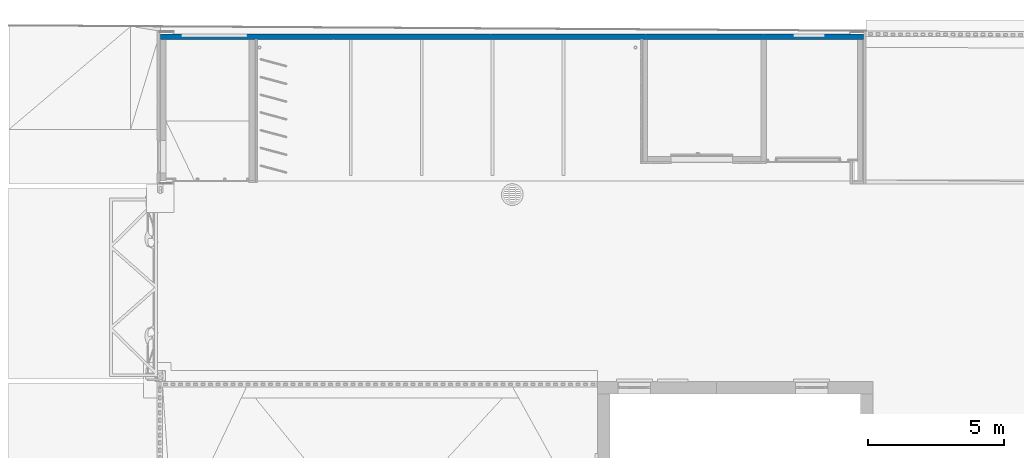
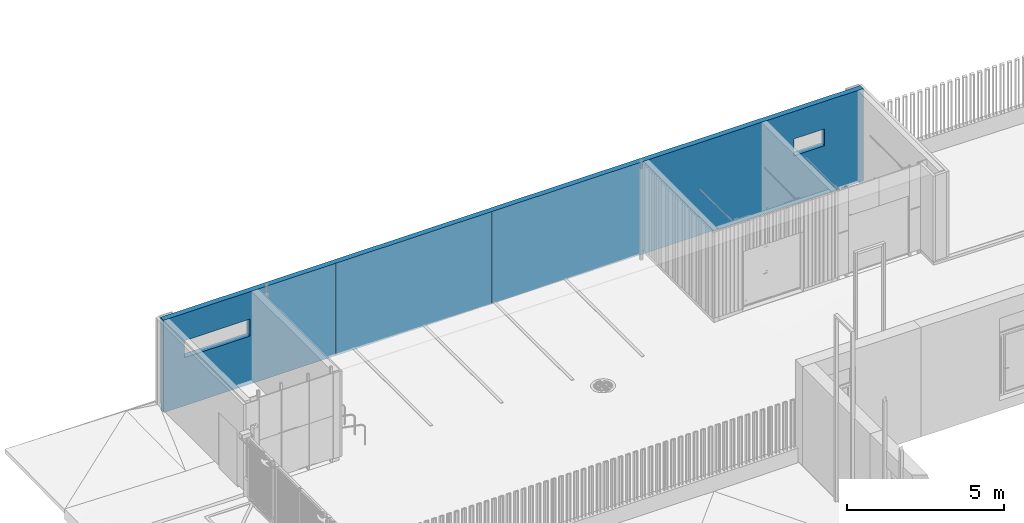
# One storey, part 37 of 77: 1 wall, 9 openings.
"""IFC2X3 building model written with IfcOpenShell, lengths in millimetres."""

from ifc_helpers import new_model, entity, si_unit, converted_unit, derived_unit, direction, frame, frame_2d, origin, origin_2d_with_axis, place, context, subcontext, project, spatial, rectangle, extrude, material, layer, layer_set, layer_usage, type_object, element, save


model = new_model("IFC2X3")

# Units and contexts
model_context = context("Model", 3, precision=0.01, world=origin(), true_north=direction((6.12303176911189e-17, 1.0)))
body_context = subcontext(model_context, "Body", "Model", "MODEL_VIEW")
ifc_project = project(units=[si_unit("LENGTHUNIT", "METRE", prefix="MILLI"), si_unit("AREAUNIT", "SQUARE_METRE"), si_unit("VOLUMEUNIT", "CUBIC_METRE"), converted_unit("PLANEANGLEUNIT", "DEGREE", entity("IfcRatioMeasure", 0.0174532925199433), si_unit("PLANEANGLEUNIT", "RADIAN"), dimensions=[0, 0, 0, 0, 0, 0, 0]), si_unit("MASSUNIT", "GRAM", prefix="KILO"), derived_unit("MASSDENSITYUNIT", [(si_unit("MASSUNIT", "GRAM", prefix="KILO"), 1), (si_unit("LENGTHUNIT", "METRE"), -3)]), si_unit("TIMEUNIT", "SECOND"), si_unit("FREQUENCYUNIT", "HERTZ"), si_unit("THERMODYNAMICTEMPERATUREUNIT", "DEGREE_CELSIUS"), derived_unit("THERMALTRANSMITTANCEUNIT", [(si_unit("MASSUNIT", "GRAM", prefix="KILO"), 1), (si_unit("THERMODYNAMICTEMPERATUREUNIT", "KELVIN"), -1), (si_unit("TIMEUNIT", "SECOND"), -3)]), derived_unit("VOLUMETRICFLOWRATEUNIT", [(si_unit("LENGTHUNIT", "METRE"), 3), (si_unit("TIMEUNIT", "SECOND"), -1)]), si_unit("ELECTRICCURRENTUNIT", "AMPERE"), si_unit("ELECTRICVOLTAGEUNIT", "VOLT"), si_unit("POWERUNIT", "WATT"), si_unit("FORCEUNIT", "NEWTON", prefix="KILO"), si_unit("ILLUMINANCEUNIT", "LUX"), si_unit("LUMINOUSFLUXUNIT", "LUMEN"), si_unit("LUMINOUSINTENSITYUNIT", "CANDELA"), derived_unit("USERDEFINED", [(si_unit("MASSUNIT", "GRAM", prefix="KILO"), -1), (si_unit("LENGTHUNIT", "METRE"), -2), (si_unit("TIMEUNIT", "SECOND"), 3), (si_unit("LUMINOUSFLUXUNIT", "LUMEN"), 1)]), derived_unit("LINEARVELOCITYUNIT", [(si_unit("LENGTHUNIT", "METRE"), 1), (si_unit("TIMEUNIT", "SECOND"), -1)]), si_unit("PRESSUREUNIT", "PASCAL"), derived_unit("USERDEFINED", [(si_unit("LENGTHUNIT", "METRE"), -2), (si_unit("MASSUNIT", "GRAM", prefix="KILO"), 1), (si_unit("TIMEUNIT", "SECOND"), -2)])], contexts=[model_context])

# Site, building, storey
site_placement = place(None, origin())
site = spatial("IfcSite", under=ifc_project, at=site_placement, Name="Default", CompositionType="ELEMENT")
building_placement = place(site_placement, origin())
building = spatial("IfcBuilding", under=site, at=building_placement, CompositionType="ELEMENT")
storey_placement = place(building_placement, origin())
storey = spatial("IfcBuildingStorey", under=building, at=storey_placement, Name="1. KORRUS", CompositionType="ELEMENT", Elevation=0.0)

# Wall, openings
ifc_material_1 = material(Name="RECKLI 1 173 THUR by Polantis 2016-toon3")
ifc_layer_1 = layer(ifc_material_1, 30.0)
ifc_material_2 = material(Name="Default New Material(1)")
ifc_layer_2 = layer(ifc_material_2, 170.0)
ifc_layer_set = layer_set([ifc_layer_1, ifc_layer_2], Name="Basic Wall:VS-10_rb200_terracota")
ifc_layer_usage = layer_usage(ifc_layer_set, "AXIS2", "NEGATIVE", 100.0)
wall_type = type_object("IfcWallType", Name="Basic Wall:VS-10_rb200_terracota", PredefinedType="STANDARD", material=ifc_layer_set)
wall_placement = place(storey_placement, frame((-16475.2351867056, 40700.0994344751, -200.0)))
wall = element("IfcWallStandardCase", 1, at=wall_placement, inside=storey, type_object=wall_type, material=ifc_layer_usage, Name="Basic Wall:VS-10_rb200_terracota", ObjectType="Basic Wall:VS-10_rb200_terracota", context=body_context, shape_type="SweptSolid", body=[
    extrude(rectangle(XDim=25775.0, YDim=200.000000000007, at=frame_2d((12887.5, 0.0), x_axis=(-1.0, 0.0))), origin(), (0.0, 0.0, 1.0), 3600.0),
])
opening_1_placement = place(wall_placement, origin())
element("IfcOpeningElement", 2, at=opening_1_placement, cuts=wall, Name="Basic Wall:VS-10_rb200_terracota", ObjectType="Recess", context=body_context, shape_type="SweptSolid", body=[
    extrude(rectangle(XDim=400.0, YDim=25775.0, at=frame_2d((0.0, 0.0), x_axis=(0.0, 1.0))), frame((12887.5, 80.0, 50.0), z_axis=(0.0, 1.0, 0.0), x_axis=(1.0, 0.0, 0.0)), (0.0, 0.0, 1.0), 20.0000000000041),
])
opening_2_placement = place(wall_placement, origin())
element("IfcOpeningElement", 3, at=opening_2_placement, cuts=wall, Name="Basic Wall:VS-10_rb200_terracota", ObjectType="Recess", context=body_context, shape_type="SweptSolid", body=[
    extrude(rectangle(XDim=3600.0, YDim=15.9999999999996, at=origin_2d_with_axis()), frame((22120.0051867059, 80.0, 1800.0), z_axis=(0.0, 1.0, 0.0), x_axis=(0.0, 0.0, 1.0)), (0.0, 0.0, 1.0), 20.0000000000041),
])
opening_3_placement = place(wall_placement, origin())
element("IfcOpeningElement", 4, at=opening_3_placement, cuts=wall, Name="Basic Wall:VS-10_rb200_terracota", ObjectType="Recess", context=body_context, shape_type="SweptSolid", body=[
    extrude(rectangle(XDim=3600.0, YDim=15.9999999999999, at=frame_2d((0.0, -1.35447209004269e-13), x_axis=(1.0, 0.0))), frame((17769.997856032, 80.0, 1800.0), z_axis=(0.0, 1.0, 0.0), x_axis=(0.0, 0.0, 1.0)), (0.0, 0.0, 1.0), 20.0000000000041),
])
opening_4_placement = place(wall_placement, origin())
element("IfcOpeningElement", 5, at=opening_4_placement, cuts=wall, Name="Basic Wall:VS-10_rb200_terracota", ObjectType="Recess", context=body_context, shape_type="SweptSolid", body=[
    extrude(rectangle(XDim=3600.0, YDim=16.0000000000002, at=frame_2d((0.0, 2.70450328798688e-13), x_axis=(1.0, 0.0))), frame((12082.0008264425, 80.0, 1800.0), z_axis=(0.0, 1.0, 0.0), x_axis=(0.0, 0.0, 1.0)), (0.0, 0.0, 1.0), 20.0000000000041),
])
opening_5_placement = place(wall_placement, origin())
element("IfcOpeningElement", 6, at=opening_5_placement, cuts=wall, Name="Basic Wall:VS-10_rb200_terracota", ObjectType="Recess", context=body_context, shape_type="SweptSolid", body=[
    extrude(rectangle(XDim=3600.0, YDim=16.0000000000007, at=origin_2d_with_axis()), frame((6341.00082644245, 80.0, 1800.0), z_axis=(0.0, 1.0, 0.0), x_axis=(0.0, 0.0, 1.0)), (0.0, 0.0, 1.0), 20.0000000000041),
])
opening_6_placement = place(wall_placement, origin())
element("IfcOpeningElement", 7, at=opening_6_placement, cuts=wall, Name="Basic Wall:VS-10_rb200_terracota", ObjectType="Recess", context=body_context, shape_type="SweptSolid", body=[
    extrude(rectangle(XDim=3600.0, YDim=16.0000000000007, at=frame_2d((0.0, 1.08268949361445e-12), x_axis=(1.0, 0.0))), frame((6340.31089902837, -100.0, 1800.0), z_axis=(0.0, 1.0, 0.0), x_axis=(0.0, 0.0, -1.0)), (0.0, 0.0, 1.0), 20.0000000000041),
])
opening_7_placement = place(wall_placement, origin())
element("IfcOpeningElement", 8, at=opening_7_placement, cuts=wall, Name="Basic Wall:VS-10_rb200_terracota", ObjectType="Recess", context=body_context, shape_type="SweptSolid", body=[
    extrude(rectangle(XDim=3600.0, YDim=16.0000000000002, at=frame_2d((0.0, -2.70450328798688e-13), x_axis=(1.0, 0.0))), frame((12081.703389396, -100.0, 1800.0), z_axis=(0.0, 1.0, 0.0), x_axis=(0.0, 0.0, -1.0)), (0.0, 0.0, 1.0), 20.0000000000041),
])
opening_8_placement = place(wall_placement, frame((770.0, -100.0, 1872.0)))
element("IfcOpeningElement", 9, at=opening_8_placement, cuts=wall, Name="vent-rest2:2400x660:1", ObjectType="Opening", context=body_context, shape_type="SweptSolid", body=[
    extrude(rectangle(XDim=659.999999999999, YDim=2400.0, at=frame_2d((330.0, 1200.0), x_axis=(-1.0, 0.0))), frame((0.0, 0.0, 0.0), z_axis=(0.0, 1.0, 0.0), x_axis=(0.0, 0.0, 1.0)), (0.0, 0.0, 1.0), 200.0),
])
opening_9_placement = place(wall_placement, frame((23211.7593711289, -100.0, 1872.0)))
element("IfcOpeningElement", 10, at=opening_9_placement, cuts=wall, Name="vent-rest2:1127x660:1", ObjectType="Opening", context=body_context, shape_type="SweptSolid", body=[
    extrude(rectangle(XDim=659.999999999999, YDim=1127.0, at=frame_2d((330.0, 563.500000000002), x_axis=(-1.0, 0.0))), frame((0.0, 0.0, 0.0), z_axis=(0.0, 1.0, 0.0), x_axis=(0.0, 0.0, 1.0)), (0.0, 0.0, 1.0), 200.0),
])

save(model, "model.ifc")
